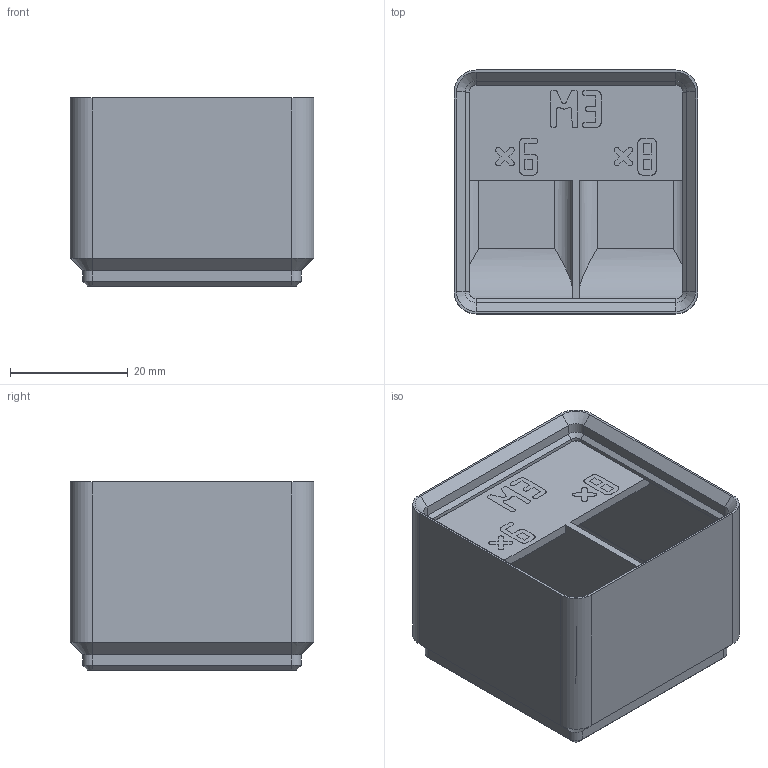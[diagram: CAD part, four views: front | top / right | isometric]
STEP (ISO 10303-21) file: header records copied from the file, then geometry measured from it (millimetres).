
FILE_DESCRIPTION(('Open CASCADE Model'),'2;1');
FILE_NAME('bin_M3_6-8','2026-11-03T10:52:10',('Author'),('Open CASCADE') ,'Open CASCADE STEP processor 8.0','build123d','Unknown');
FILE_SCHEMA(('AUTOMOTIVE_DESIGN { 1 0 10303 214 1 1 1 1 }'));
Length unit declared in the file: millimetre
Products named in the file (3): bin_M3_6-8; M3_6-8_body; M3_6-8_label
Assembly tree (2 placements, depth 2):
  bin_M3_6-8
    M3_6-8_body
    M3_6-8_label
Bounding box: 41.5 x 41.5 x 32 mm (x, y, z)
Volume: 21988.3 mm3; surface area: 14117.7 mm2
Topology: 7 solids, 7 shells, 1316 faces, 3812 edges, 2520 vertices
Faces by surface type: plane 1272, cylinder 24, cone 20
Entity records: 92313 total; most frequent: CARTESIAN_POINT 16157, DIRECTION 13865, LINE 11108, VECTOR 11108, ORIENTED_EDGE 7624, PCURVE 7624, DEFINITIONAL_REPRESENTATION 7624, EDGE_CURVE 3812
